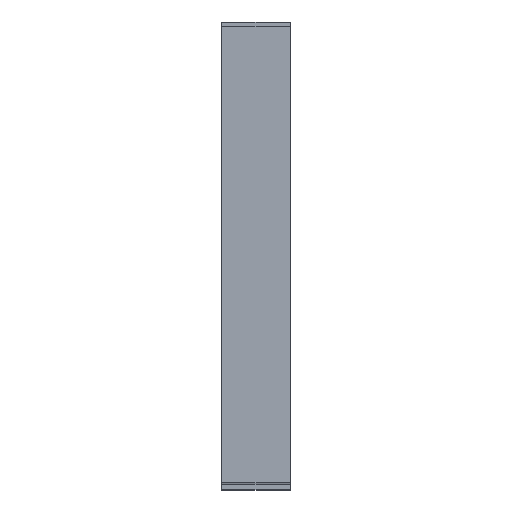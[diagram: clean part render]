
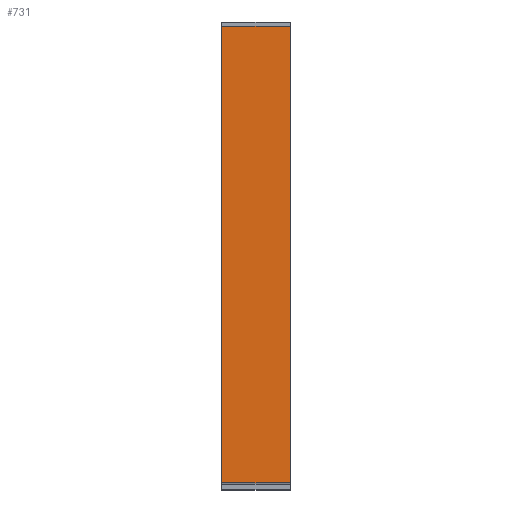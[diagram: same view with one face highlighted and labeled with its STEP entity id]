
A CAD part, top view. The second image highlights one B-rep face of the part: STEP entity #731.
In plain terms, the highlighted planar face has unit normal (0, 0, 1).
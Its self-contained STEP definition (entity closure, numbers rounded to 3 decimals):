
#32 = PLANE('',#33);
#33 = AXIS2_PLACEMENT_3D('',#34,#35,#36);
#34 = CARTESIAN_POINT('',(44.1,-31.9,-2.91));
#35 = DIRECTION('',(1.,0.,-0.));
#36 = DIRECTION('',(0.,0.,1.));
#141 = VERTEX_POINT('',#142);
#142 = CARTESIAN_POINT('',(44.1,-23.9,11.5));
#156 = PLANE('',#157);
#157 = AXIS2_PLACEMENT_3D('',#158,#159,#160);
#158 = CARTESIAN_POINT('',(44.1,-23.9,-2.91));
#159 = DIRECTION('',(-0.,1.,0.));
#160 = DIRECTION('',(0.,0.,1.));
#168 = EDGE_CURVE('',#169,#141,#171,.T.);
#169 = VERTEX_POINT('',#170);
#170 = CARTESIAN_POINT('',(44.1,-31.9,11.5));
#171 = SURFACE_CURVE('',#172,(#176,#183),.PCURVE_S1.);
#172 = LINE('',#173,#174);
#173 = CARTESIAN_POINT('',(44.1,-31.9,11.5));
#174 = VECTOR('',#175,1.);
#175 = DIRECTION('',(-0.,1.,0.));
#176 = PCURVE('',#32,#177);
#177 = DEFINITIONAL_REPRESENTATION('',(#178),#182);
#178 = LINE('',#179,#180);
#179 = CARTESIAN_POINT('',(14.41,0.));
#180 = VECTOR('',#181,1.);
#181 = DIRECTION('',(0.,-1.));
#182 = ( GEOMETRIC_REPRESENTATION_CONTEXT(2) 
PARAMETRIC_REPRESENTATION_CONTEXT() REPRESENTATION_CONTEXT('2D SPACE',''
  ) );
#183 = PCURVE('',#184,#189);
#184 = PLANE('',#185);
#185 = AXIS2_PLACEMENT_3D('',#186,#187,#188);
#186 = CARTESIAN_POINT('',(44.1,-31.9,11.5));
#187 = DIRECTION('',(0.,0.,1.));
#188 = DIRECTION('',(1.,0.,-0.));
#189 = DEFINITIONAL_REPRESENTATION('',(#190),#194);
#190 = LINE('',#191,#192);
#191 = CARTESIAN_POINT('',(0.,0.));
#192 = VECTOR('',#193,1.);
#193 = DIRECTION('',(0.,1.));
#194 = ( GEOMETRIC_REPRESENTATION_CONTEXT(2) 
PARAMETRIC_REPRESENTATION_CONTEXT() REPRESENTATION_CONTEXT('2D SPACE',''
  ) );
#212 = PLANE('',#213);
#213 = AXIS2_PLACEMENT_3D('',#214,#215,#216);
#214 = CARTESIAN_POINT('',(44.1,-31.9,-2.91));
#215 = DIRECTION('',(-0.,1.,0.));
#216 = DIRECTION('',(0.,0.,1.));
#377 = PLANE('',#378);
#378 = AXIS2_PLACEMENT_3D('',#379,#380,#381);
#379 = CARTESIAN_POINT('',(45.3,-32.,-4.4));
#380 = DIRECTION('',(1.,0.,-0.));
#381 = DIRECTION('',(0.,0.,1.));
#640 = VERTEX_POINT('',#641);
#641 = CARTESIAN_POINT('',(45.3,-31.9,11.5));
#664 = EDGE_CURVE('',#169,#640,#665,.T.);
#665 = SURFACE_CURVE('',#666,(#670,#677),.PCURVE_S1.);
#666 = LINE('',#667,#668);
#667 = CARTESIAN_POINT('',(44.1,-31.9,11.5));
#668 = VECTOR('',#669,1.);
#669 = DIRECTION('',(1.,0.,-0.));
#670 = PCURVE('',#212,#671);
#671 = DEFINITIONAL_REPRESENTATION('',(#672),#676);
#672 = LINE('',#673,#674);
#673 = CARTESIAN_POINT('',(14.41,0.));
#674 = VECTOR('',#675,1.);
#675 = DIRECTION('',(0.,1.));
#676 = ( GEOMETRIC_REPRESENTATION_CONTEXT(2) 
PARAMETRIC_REPRESENTATION_CONTEXT() REPRESENTATION_CONTEXT('2D SPACE',''
  ) );
#677 = PCURVE('',#184,#678);
#678 = DEFINITIONAL_REPRESENTATION('',(#679),#683);
#679 = LINE('',#680,#681);
#680 = CARTESIAN_POINT('',(0.,0.));
#681 = VECTOR('',#682,1.);
#682 = DIRECTION('',(1.,0.));
#683 = ( GEOMETRIC_REPRESENTATION_CONTEXT(2) 
PARAMETRIC_REPRESENTATION_CONTEXT() REPRESENTATION_CONTEXT('2D SPACE',''
  ) );
#731 = ADVANCED_FACE('',(#732),#184,.T.);
#732 = FACE_BOUND('',#733,.T.);
#733 = EDGE_LOOP('',(#734,#735,#736,#759));
#734 = ORIENTED_EDGE('',*,*,#168,.F.);
#735 = ORIENTED_EDGE('',*,*,#664,.T.);
#736 = ORIENTED_EDGE('',*,*,#737,.T.);
#737 = EDGE_CURVE('',#640,#738,#740,.T.);
#738 = VERTEX_POINT('',#739);
#739 = CARTESIAN_POINT('',(45.3,-23.9,11.5));
#740 = SURFACE_CURVE('',#741,(#745,#752),.PCURVE_S1.);
#741 = LINE('',#742,#743);
#742 = CARTESIAN_POINT('',(45.3,-31.9,11.5));
#743 = VECTOR('',#744,1.);
#744 = DIRECTION('',(-0.,1.,0.));
#745 = PCURVE('',#184,#746);
#746 = DEFINITIONAL_REPRESENTATION('',(#747),#751);
#747 = LINE('',#748,#749);
#748 = CARTESIAN_POINT('',(1.2,0.));
#749 = VECTOR('',#750,1.);
#750 = DIRECTION('',(0.,1.));
#751 = ( GEOMETRIC_REPRESENTATION_CONTEXT(2) 
PARAMETRIC_REPRESENTATION_CONTEXT() REPRESENTATION_CONTEXT('2D SPACE',''
  ) );
#752 = PCURVE('',#377,#753);
#753 = DEFINITIONAL_REPRESENTATION('',(#754),#758);
#754 = LINE('',#755,#756);
#755 = CARTESIAN_POINT('',(15.9,-0.1));
#756 = VECTOR('',#757,1.);
#757 = DIRECTION('',(0.,-1.));
#758 = ( GEOMETRIC_REPRESENTATION_CONTEXT(2) 
PARAMETRIC_REPRESENTATION_CONTEXT() REPRESENTATION_CONTEXT('2D SPACE',''
  ) );
#759 = ORIENTED_EDGE('',*,*,#760,.F.);
#760 = EDGE_CURVE('',#141,#738,#761,.T.);
#761 = SURFACE_CURVE('',#762,(#766,#773),.PCURVE_S1.);
#762 = LINE('',#763,#764);
#763 = CARTESIAN_POINT('',(44.1,-23.9,11.5));
#764 = VECTOR('',#765,1.);
#765 = DIRECTION('',(1.,0.,-0.));
#766 = PCURVE('',#184,#767);
#767 = DEFINITIONAL_REPRESENTATION('',(#768),#772);
#768 = LINE('',#769,#770);
#769 = CARTESIAN_POINT('',(0.,8.));
#770 = VECTOR('',#771,1.);
#771 = DIRECTION('',(1.,0.));
#772 = ( GEOMETRIC_REPRESENTATION_CONTEXT(2) 
PARAMETRIC_REPRESENTATION_CONTEXT() REPRESENTATION_CONTEXT('2D SPACE',''
  ) );
#773 = PCURVE('',#156,#774);
#774 = DEFINITIONAL_REPRESENTATION('',(#775),#779);
#775 = LINE('',#776,#777);
#776 = CARTESIAN_POINT('',(14.41,0.));
#777 = VECTOR('',#778,1.);
#778 = DIRECTION('',(0.,1.));
#779 = ( GEOMETRIC_REPRESENTATION_CONTEXT(2) 
PARAMETRIC_REPRESENTATION_CONTEXT() REPRESENTATION_CONTEXT('2D SPACE',''
  ) );
